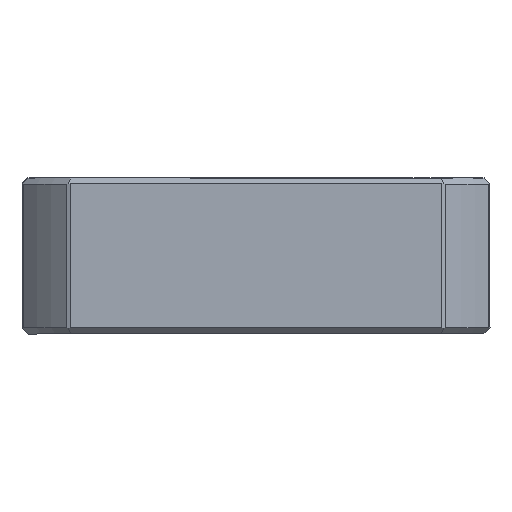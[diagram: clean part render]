
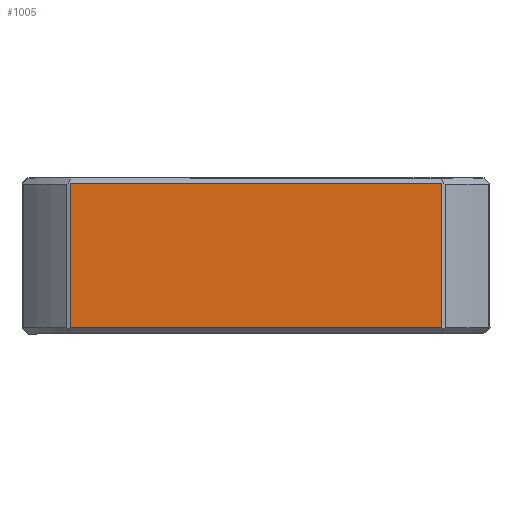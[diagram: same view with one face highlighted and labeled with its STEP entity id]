
A CAD part, left-side view. The second image highlights one B-rep face of the part: STEP entity #1005.
In plain terms, the highlighted planar face has unit normal (-1, 0, 0).
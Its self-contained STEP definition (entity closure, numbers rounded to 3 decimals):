
#823 = EDGE_CURVE ( 'NONE', #839, #824, #3437, .T. ) ;
#824 = VERTEX_POINT ( 'NONE', #3433 ) ;
#836 = VERTEX_POINT ( 'NONE', #3463 ) ;
#838 = EDGE_CURVE ( 'NONE', #836, #839, #3462, .T. ) ;
#839 = VERTEX_POINT ( 'NONE', #3458 ) ;
#889 = EDGE_CURVE ( 'NONE', #824, #890, #3562, .T. ) ;
#890 = VERTEX_POINT ( 'NONE', #3558 ) ;
#982 = EDGE_LOOP ( 'NONE', ( #983, #984, #986, #987 ) ) ;
#983 = ORIENTED_EDGE ( 'NONE', *, *, #838, .F. ) ;
#984 = ORIENTED_EDGE ( 'NONE', *, *, #985, .T. ) ;
#985 = EDGE_CURVE ( 'NONE', #836, #890, #3667, .T. ) ;
#986 = ORIENTED_EDGE ( 'NONE', *, *, #889, .F. ) ;
#987 = ORIENTED_EDGE ( 'NONE', *, *, #823, .F. ) ;
#1005 = ADVANCED_FACE ( 'NONE', ( #3708 ), #3707, .F. ) ;
#3433 = CARTESIAN_POINT ( 'NONE',  ( -19.5, -15.468, 12.5 ) ) ;
#3434 = DIRECTION ( 'NONE',  ( 0., -1., 0. ) ) ;
#3435 = VECTOR ( 'NONE', #3434, 1000. ) ;
#3436 = CARTESIAN_POINT ( 'NONE',  ( -19.5, 0., 12.5 ) ) ;
#3437 = LINE ( 'NONE', #3436, #3435 ) ;
#3458 = CARTESIAN_POINT ( 'NONE',  ( -19.5, 15.468, 12.5 ) ) ;
#3459 = DIRECTION ( 'NONE',  ( 0., 0., 1. ) ) ;
#3460 = VECTOR ( 'NONE', #3459, 1000. ) ;
#3461 = CARTESIAN_POINT ( 'NONE',  ( -19.5, 15.468, 6.5 ) ) ;
#3462 = LINE ( 'NONE', #3461, #3460 ) ;
#3463 = CARTESIAN_POINT ( 'NONE',  ( -19.5, 15.468, 0.5 ) ) ;
#3558 = CARTESIAN_POINT ( 'NONE',  ( -19.5, -15.468, 0.5 ) ) ;
#3559 = DIRECTION ( 'NONE',  ( 0., 0., -1. ) ) ;
#3560 = VECTOR ( 'NONE', #3559, 1000. ) ;
#3561 = CARTESIAN_POINT ( 'NONE',  ( -19.5, -15.468, 6.5 ) ) ;
#3562 = LINE ( 'NONE', #3561, #3560 ) ;
#3667 = LINE ( 'NONE', #3732, #3731 ) ;
#3703 = DIRECTION ( 'NONE',  ( 0., 1., 0. ) ) ;
#3704 = DIRECTION ( 'NONE',  ( 1., 0., 0. ) ) ;
#3705 = CARTESIAN_POINT ( 'NONE',  ( -19.5, -16.086, 0.26 ) ) ;
#3706 = AXIS2_PLACEMENT_3D ( 'NONE', #3705, #3704, #3703 ) ;
#3707 = PLANE ( 'NONE',  #3706 ) ;
#3708 = FACE_OUTER_BOUND ( 'NONE', #982, .T. ) ;
#3730 = DIRECTION ( 'NONE',  ( 0., -1., 0. ) ) ;
#3731 = VECTOR ( 'NONE', #3730, 1000. ) ;
#3732 = CARTESIAN_POINT ( 'NONE',  ( -19.5, 0., 0.5 ) ) ;
